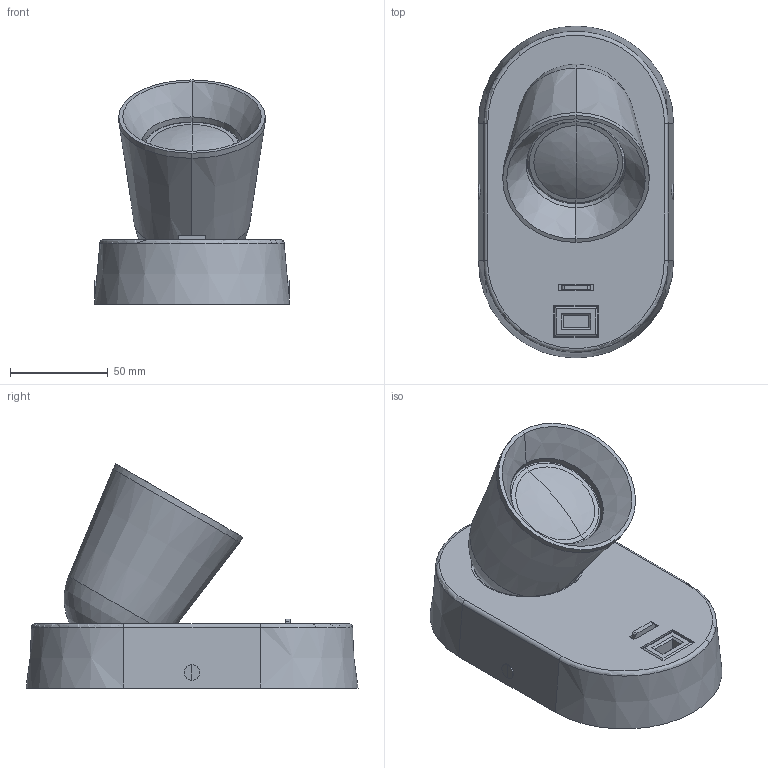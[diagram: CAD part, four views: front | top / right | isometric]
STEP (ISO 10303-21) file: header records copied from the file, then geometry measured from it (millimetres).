
FILE_DESCRIPTION(/* description */ (''),/* implementation_level */ '2;1');
FILE_NAME(/* name */ 'C:\Users\FrancoSartori\Documents\FARO\01_En Proceso\2021\0_CORB\03_Publicación\40135.stp',/* time_stamp */ '2021-04-13T09:31:56+02:00',/* author */ ('FrancoSartori'),/* organization */ (''),/* preprocessor_version */ 'ST-DEVELOPER v18.1',/* originating_system */ 'AutoCAD Mechanical',/* authorisation */ '');
FILE_SCHEMA (('AUTOMOTIVE_DESIGN { 1 0 10303 214 3 1 1 }'));
Length unit declared in the file: millimetre
Products named in the file (2): Product; 40135_ 40136 - Lamp-462271-Export
Assembly tree (1 placements, depth 2):
  Product
    40135_ 40136 - Lamp-462271-Export
Bounding box: 100 x 170 x 114.76 mm (x, y, z)
Volume: 141513.9 mm3; surface area: 114500.5 mm2
Topology: 10 solids, 10 shells, 171 faces, 403 edges, 251 vertices
Faces by surface type: plane 93, cylinder 38, cone 18, torus 10, bspline 8, sphere 4
Entity records: 5378 total; most frequent: CARTESIAN_POINT 1489, ORIENTED_EDGE 794, DIRECTION 765, EDGE_CURVE 397, AXIS2_PLACEMENT_3D 269, VERTEX_POINT 251, LINE 227, VECTOR 227
